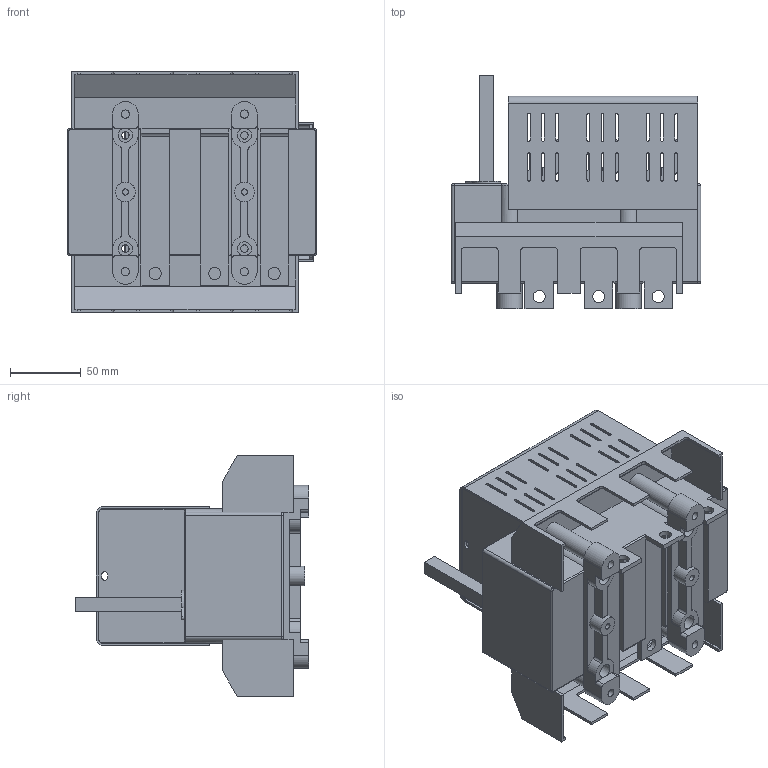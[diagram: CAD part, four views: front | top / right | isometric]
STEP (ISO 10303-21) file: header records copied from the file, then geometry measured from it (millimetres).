
FILE_DESCRIPTION(/* description */ (''),/* implementation_level */ '2;1');
FILE_NAME(/* name */ 'RAB 00 P3 A z oslona zaciskow.stp',/* time_stamp */ '2021-08-19T11:12:15+02:00',/* author */ (''),/* organization */ (''),/* preprocessor_version */ 'ST-DEVELOPER v18.1',/* originating_system */ 'SIEMENS PLM Software NX 1965',/* authorisation */ '');
FILE_SCHEMA (('AUTOMOTIVE_DESIGN { 1 0 10303 214 3 1 1 1 }'));
Length unit declared in the file: millimetre
Products named in the file (1): RAB 00 P3 A z oslona zaciskow_stp
Bounding box: 176 x 165 x 169.8 mm (x, y, z)
Volume: 1280357.9 mm3; surface area: 286643.8 mm2
Topology: 1 solids, 1 shells, 1025 faces, 2961 edges, 1930 vertices
Faces by surface type: plane 650, cylinder 363, torus 7, bspline 5
Full cylindrical faces by diameter (mm): 2.7 x4, 4.3 x2, 5 x6, 5.2 x6, 5.3 x4, 5.8 x4, 8.5 x6, 10 x12, 13 x4, 14 x2
Entity records: 33484 total; most frequent: CARTESIAN_POINT 6008, ORIENTED_EDGE 5746, DIRECTION 5663, EDGE_CURVE 2873, LINE 2061, VECTOR 2061, VERTEX_POINT 1892, AXIS2_PLACEMENT_3D 1801
